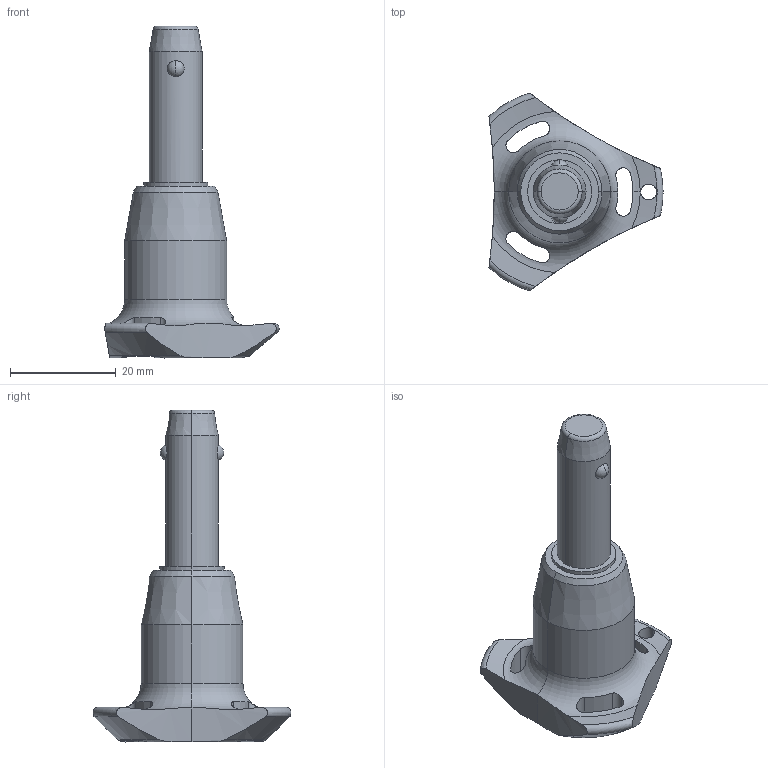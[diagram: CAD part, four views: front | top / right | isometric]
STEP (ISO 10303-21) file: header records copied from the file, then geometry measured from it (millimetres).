
FILE_DESCRIPTION (( 'STEP AP203' ), '1' );
FILE_NAME ('QR1734.M10-020-S.step', '2025-11-12T14:23:29', ( '' ), ( '' ), 'SwSTEP 2.0', 'SolidWorks 2019', '' );
FILE_SCHEMA (( 'CONFIG_CONTROL_DESIGN' ));
Length unit declared in the file: millimetre
Products named in the file (1): QR1734.M10-020-S
Bounding box: 33 x 37.51 x 62.9 mm (x, y, z)
Volume: 12650.8 mm3; surface area: 4792.7 mm2
Topology: 1 solids, 1 shells, 65 faces, 174 edges, 109 vertices
Faces by surface type: cylinder 30, cone 14, torus 11, sphere 6, plane 4
Entity records: 2758 total; most frequent: CARTESIAN_POINT 1085, ORIENTED_EDGE 348, DIRECTION 331, EDGE_CURVE 174, AXIS2_PLACEMENT_3D 147, VERTEX_POINT 109, CIRCLE 81, EDGE_LOOP 71
